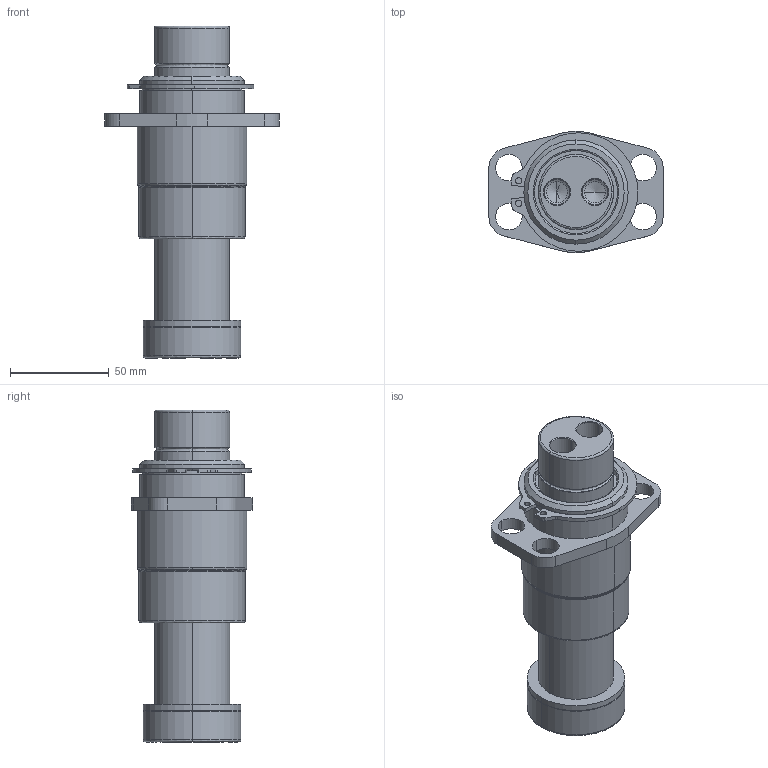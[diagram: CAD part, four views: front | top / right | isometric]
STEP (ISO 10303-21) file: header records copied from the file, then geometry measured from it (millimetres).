
FILE_DESCRIPTION (( 'STEP AP214' ), '1' );
FILE_NAME ('GK152-N3-1-TB-E-XXX.STEP', '2020-09-21T19:18:48', ( '' ), ( '' ), 'SwSTEP 2.0', 'SolidWorks 2017', '' );
FILE_SCHEMA (( 'AUTOMOTIVE_DESIGN' ));
Length unit declared in the file: inch
Products named in the file (7): RetainingRing; GK152-N3-1-TB-E-XXX; GK152-DampeningWasher; GK152-E-XXX-GuidePin; GK1.50-N3-1-TB-Base
Assembly tree (6 placements, depth 3):
  GK152-N3-1-TB-E-XXX
    GK1.50-N3-1-TB-Base
      GK1.50-N3-1-TB-Base
      RetainingRing
    GK152-E-XXX-GuidePin
      GK152-E-XXX-GuidePin
      GK152-DampeningWasher
Bounding box: 88.34 x 61.36 x 168.28 mm (x, y, z)
Volume: 299013.5 mm3; surface area: 64562.1 mm2
Topology: 4 solids, 4 shells, 133 faces, 311 edges, 190 vertices
Faces by surface type: cylinder 65, plane 26, cone 22, bspline 20
Entity records: 4804 total; most frequent: CARTESIAN_POINT 1281, DIRECTION 719, ORIENTED_EDGE 614, EDGE_CURVE 307, AXIS2_PLACEMENT_3D 298, VERTEX_POINT 190, CIRCLE 174, EDGE_LOOP 157
